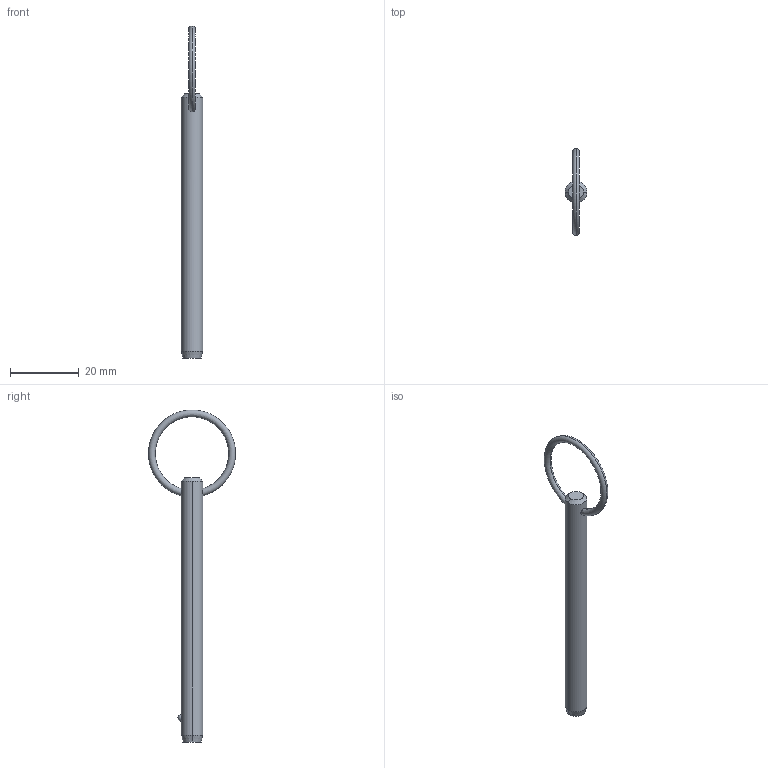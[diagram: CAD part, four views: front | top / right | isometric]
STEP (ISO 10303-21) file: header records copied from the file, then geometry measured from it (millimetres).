
FILE_DESCRIPTION (( 'STEP AP203' ), '1' );
FILE_NAME ('P1250.025-250.step', '2019-07-29T19:43:17', ( '' ), ( '' ), 'SwSTEP 2.0', 'SolidWorks 2017', '' );
FILE_SCHEMA (( 'CONFIG_CONTROL_DESIGN' ));
Length unit declared in the file: millimetre
Products named in the file (1): P1250.025-250
Bounding box: 6.35 x 25.38 x 96.82 mm (x, y, z)
Volume: 2632.2 mm3; surface area: 1993.5 mm2
Topology: 1 solids, 1 shells, 12 faces, 28 edges, 17 vertices
Faces by surface type: cone 4, torus 2, sphere 2, cylinder 2, plane 2
Entity records: 481 total; most frequent: CARTESIAN_POINT 148, DIRECTION 56, ORIENTED_EDGE 48, AXIS2_PLACEMENT_3D 25, EDGE_CURVE 24, EDGE_LOOP 15, VERTEX_POINT 15, CIRCLE 12
